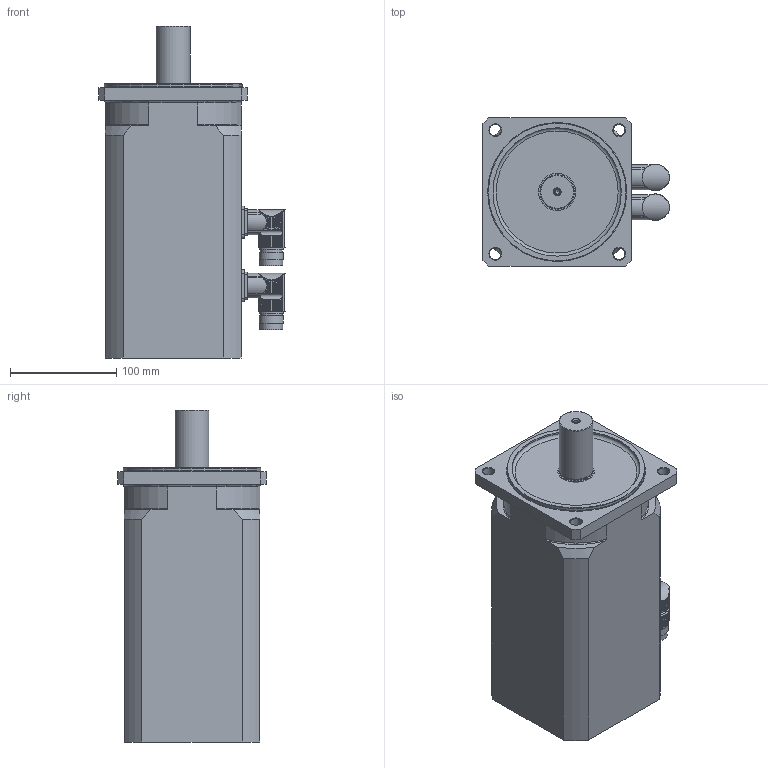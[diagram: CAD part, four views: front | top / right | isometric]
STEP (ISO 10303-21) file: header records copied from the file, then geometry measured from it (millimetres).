
FILE_DESCRIPTION(/* description */ (''),/* implementation_level */ '2;1');
FILE_NAME(/* name */ 'KSY 564 D-MD-Rx',/* time_stamp */ '2007-01-03T15:41:59+01:00',/* author */ (''),/* organization */ (''),/* preprocessor_version */ 'ST-DEVELOPER v8',/* originating_system */ 'UNIGRAPHICS SOLUTIONS - UNIGRAPHICS 18.0',/* authorisation */ '');
FILE_SCHEMA (('AUTOMOTIVE_DESIGN { 1 2 10303 214 0 1 1 1 }'));
Length unit declared in the file: millimetre
Products named in the file (3): Winkelflanschdose_0; Rotor_SY5_0; KSY564D-MD-RD_0
Assembly tree (3 placements, depth 2):
  KSY564D-MD-RD_0
    Rotor_SY5_0
    Winkelflanschdose_0  x2
Bounding box: 175.49 x 140 x 313 mm (x, y, z)
Volume: 4182390.8 mm3; surface area: 191479.1 mm2
Topology: 4 solids, 4 shells, 419 faces, 1162 edges, 769 vertices
Faces by surface type: cylinder 319, plane 74, cone 13, torus 13
Full cylindrical faces by diameter (mm): 4.351 x1, 5.5 x1, 11 x4, 16 x2, 21 x2, 21.5 x2, 23 x4, 31.52 x1, 32 x1, 35 x1, 121 x1, 130 x1
Entity records: 8421 total; most frequent: CARTESIAN_POINT 2117, ORIENTED_EDGE 1310, DIRECTION 1248, EDGE_CURVE 655, AXIS2_PLACEMENT_3D 498, VERTEX_POINT 449, EDGE_LOOP 305, ADVANCED_FACE 255
